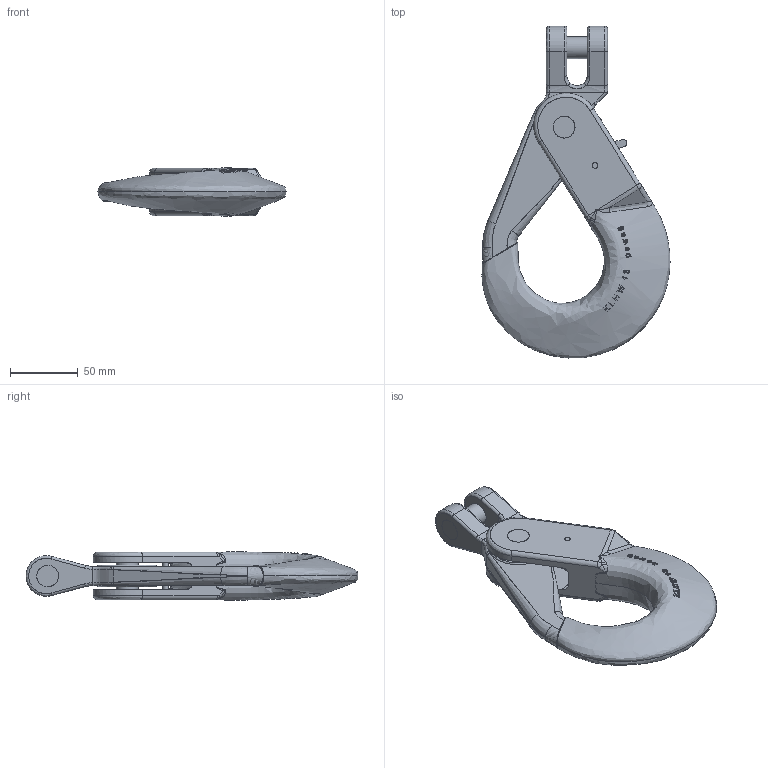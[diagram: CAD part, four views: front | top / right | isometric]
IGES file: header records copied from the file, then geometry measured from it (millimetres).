
Global section: file name: L:\users\SC\3D Kundenmodelle\UG Zg der Ableitung G100\KLHW Kundenmodell\KLHW 13 Kundenmodell\pewag_KLHW_13.igs; native system: NX V4.0; preprocessor: UGS NX IGES V4.0; date: 20100204.120829; units: millimetre
Bounding box: 138.41 x 244.28 x 35.45 mm (x, y, z)
Surface area: 72270.9 mm2 (no closed solid volume)
Topology: 0 solids, 0 shells, 350 faces, 2340 edges, 2327 vertices
Faces by surface type: bspline 339, offset 11
